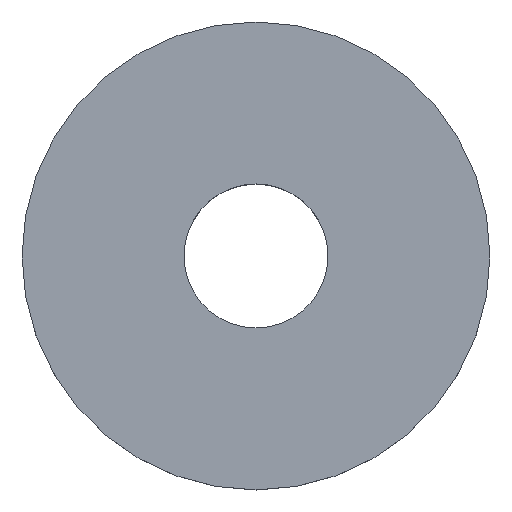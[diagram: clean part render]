
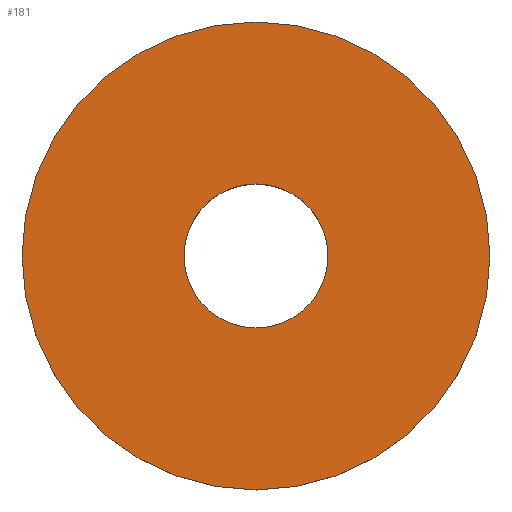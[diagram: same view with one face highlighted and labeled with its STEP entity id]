
A CAD part, top view. The second image highlights one B-rep face of the part: STEP entity #181.
In plain terms, the highlighted planar face has unit normal (0, 0, 1).
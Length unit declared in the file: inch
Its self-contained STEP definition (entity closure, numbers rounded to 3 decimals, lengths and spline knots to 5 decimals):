
#147=CARTESIAN_POINT('',(0.0,-0.8125,0.));
#148=VERTEX_POINT('',#147);
#149=CARTESIAN_POINT('',(0.0,0.,0.));
#150=DIRECTION('',(0.0,0.0,1.0));
#151=DIRECTION('',(0.0,-1.0,0.0));
#152=AXIS2_PLACEMENT_3D('',#149,#150,#151);
#153=CIRCLE('',#152,0.8125);
#154=EDGE_CURVE('',#148,#148,#153,.T.);
#162=CARTESIAN_POINT('',(0.0,-0.53125,0.));
#163=DIRECTION('',(0.0,0.0,1.0));
#164=DIRECTION('',(1.0,0.0,0.0));
#165=AXIS2_PLACEMENT_3D('',#162,#163,#164);
#166=PLANE('',#165);
#167=ORIENTED_EDGE('',*,*,#154,.T.);
#168=EDGE_LOOP('',(#167));
#169=FACE_OUTER_BOUND('',#168,.T.);
#170=CARTESIAN_POINT('',(0.0,-0.25,0.));
#171=VERTEX_POINT('',#170);
#172=CARTESIAN_POINT('',(0.0,0.,0.));
#173=DIRECTION('',(0.0,0.0,1.0));
#174=DIRECTION('',(0.0,-1.0,0.0));
#175=AXIS2_PLACEMENT_3D('',#172,#173,#174);
#176=CIRCLE('',#175,0.25);
#177=EDGE_CURVE('',#171,#171,#176,.T.);
#178=ORIENTED_EDGE('',*,*,#177,.F.);
#179=EDGE_LOOP('',(#178));
#180=FACE_BOUND('',#179,.T.);
#181=ADVANCED_FACE('',(#169,#180),#166,.T.);
